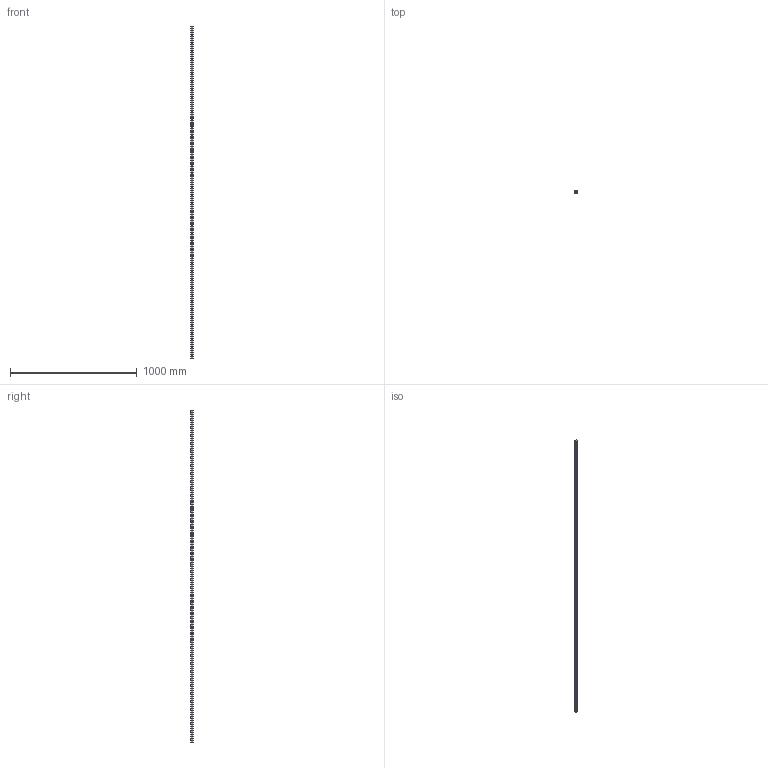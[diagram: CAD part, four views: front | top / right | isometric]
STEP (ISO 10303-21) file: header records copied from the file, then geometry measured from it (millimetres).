
FILE_DESCRIPTION (( 'STEP AP203' ), '1' );
FILE_NAME ('L1016.BL20-2620.step', '2019-06-12T11:53:43', ( '' ), ( '' ), 'SwSTEP 2.0', 'SolidWorks 2017', '' );
FILE_SCHEMA (( 'CONFIG_CONTROL_DESIGN' ));
Length unit declared in the file: millimetre
Products named in the file (1): L1016.BL20-2620
Bounding box: 20 x 16.3 x 2620 mm (x, y, z)
Volume: 728258.1 mm3; surface area: 210817.7 mm2
Topology: 1 solids, 1 shells, 246 faces, 600 edges, 400 vertices
Faces by surface type: cylinder 180, plane 66
Entity records: 7677 total; most frequent: DIRECTION 1454, CARTESIAN_POINT 1247, ORIENTED_EDGE 1200, AXIS2_PLACEMENT_3D 607, EDGE_CURVE 600, VERTEX_POINT 400, EDGE_LOOP 378, CIRCLE 360
